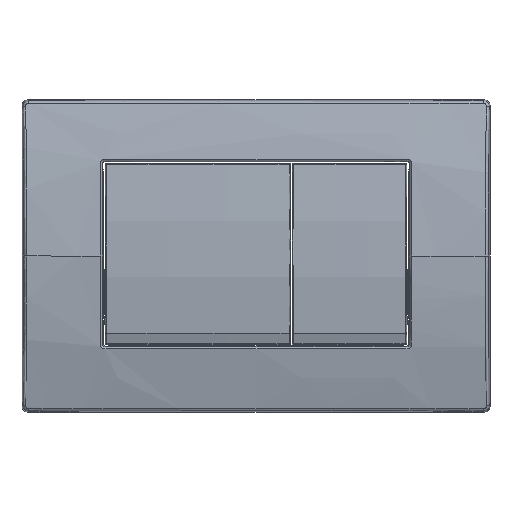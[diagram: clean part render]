
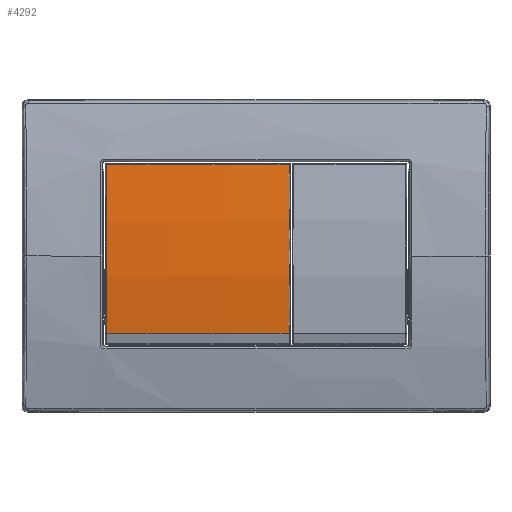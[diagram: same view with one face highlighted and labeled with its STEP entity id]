
A CAD part, front view. The second image highlights one B-rep face of the part: STEP entity #4292.
In plain terms, the highlighted toroidal (fillet/blend) face has major radius 3888.86 mm and minor radius 311.136 mm.
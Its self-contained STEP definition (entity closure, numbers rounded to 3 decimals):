
#451=TOROIDAL_SURFACE('',#4586,3888.864,311.136);
#550=CIRCLE('',#4537,4197.325);
#564=CIRCLE('',#4564,311.065);
#567=CIRCLE('',#4568,310.936);
#571=CIRCLE('',#4574,4184.256);
#693=FACE_OUTER_BOUND('',#941,.T.);
#941=EDGE_LOOP('',(#2807,#2808,#2809,#2810));
#1593=VERTEX_POINT('',#5741);
#1594=VERTEX_POINT('',#5742);
#1615=VERTEX_POINT('',#5851);
#1618=VERTEX_POINT('',#5934);
#2010=EDGE_CURVE('',#1593,#1594,#550,.F.);
#2047=EDGE_CURVE('',#1593,#1615,#564,.F.);
#2055=EDGE_CURVE('',#1618,#1594,#567,.F.);
#2061=EDGE_CURVE('',#1615,#1618,#571,.T.);
#2807=ORIENTED_EDGE('',*,*,#2047,.T.);
#2808=ORIENTED_EDGE('',*,*,#2061,.T.);
#2809=ORIENTED_EDGE('',*,*,#2055,.T.);
#2810=ORIENTED_EDGE('',*,*,#2010,.F.);
#4292=ADVANCED_FACE('',(#693),#451,.T.);
#4537=AXIS2_PLACEMENT_3D('',#5743,#4890,#4891);
#4564=AXIS2_PLACEMENT_3D('',#5857,#4964,#4965);
#4568=AXIS2_PLACEMENT_3D('',#5935,#4974,#4975);
#4574=AXIS2_PLACEMENT_3D('',#6006,#4986,#4987);
#4586=AXIS2_PLACEMENT_3D('',#6062,#5013,#5014);
#4890=DIRECTION('center_axis',(0.,0.,
1.));
#4891=DIRECTION('ref_axis',(0.,1.,0.));
#4964=DIRECTION('center_axis',(1.,-0.017,0.));
#4965=DIRECTION('ref_axis',(-0.017,-0.991,-0.131));
#4974=DIRECTION('center_axis',(-1.,-0.017,0.));
#4975=DIRECTION('ref_axis',(0.017,-0.988,0.154));
#4986=DIRECTION('center_axis',(0.,0.017,
-1.));
#4987=DIRECTION('ref_axis',(-0.019,-1.,-0.017));
#5013=DIRECTION('center_axis',(0.,0.,
1.));
#5014=DIRECTION('ref_axis',(-0.174,-0.985,0.));
#5741=CARTESIAN_POINT('',(17.418,-20.289,-40.708));
#5742=CARTESIAN_POINT('',(-78.637,-19.589,-40.708));
#5743=CARTESIAN_POINT('Origin',(0.,4177.,-40.708));
#5851=CARTESIAN_POINT('',(17.436,-19.245,47.961));
#5857=CARTESIAN_POINT('Origin',(22.79,288.054,0.));
#5934=CARTESIAN_POINT('',(-78.655,-18.542,47.973));
#5935=CARTESIAN_POINT('Origin',(-84.,288.624,0.));
#6006=CARTESIAN_POINT('Origin',(0.,4164.335,121.094));
#6062=CARTESIAN_POINT('Origin',(0.,4177.,
0.));
